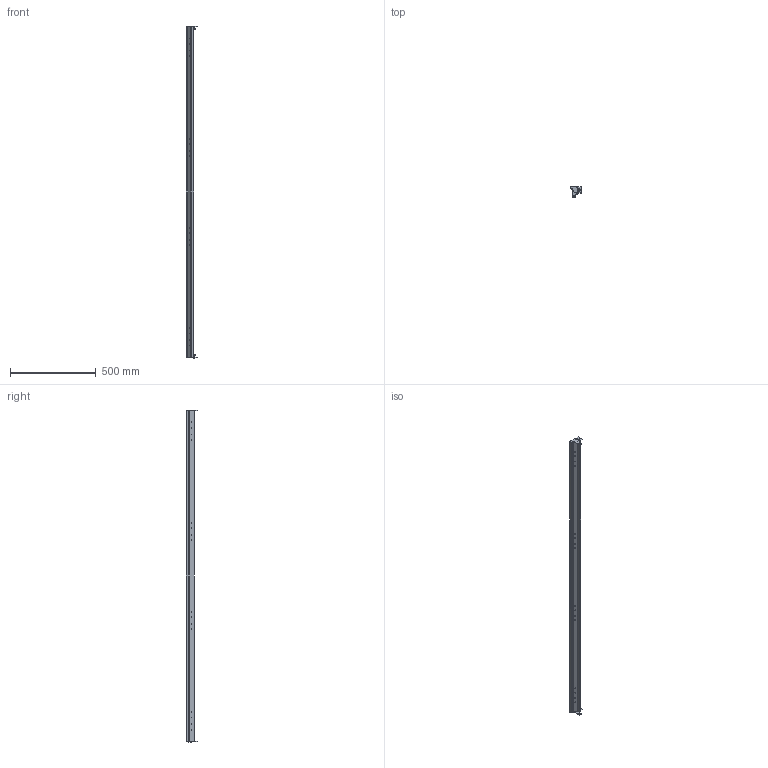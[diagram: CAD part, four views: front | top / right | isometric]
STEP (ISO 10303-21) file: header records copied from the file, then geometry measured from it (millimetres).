
FILE_DESCRIPTION (( 'STEP AP214' ), '1' );
FILE_NAME ('FO-00-PRVV-200 FORMAT Ïðîôèëü âåðò. âñòðîåí. îòñåêà 2000 IEK.STEP', '2025-07-15T06:30:39', ( '' ), ( '' ), 'SwSTEP 2.0', 'SolidWorks 2023', '' );
FILE_SCHEMA (( 'AUTOMOTIVE_DESIGN' ));
Length unit declared in the file: millimetre
Products named in the file (1): FO-00-PRVV-200 FORMAT Профиль верт. встроен. отсека 2000 IEK
Bounding box: 69 x 64.5 x 1933 mm (x, y, z)
Volume: 465587.4 mm3; surface area: 616732.4 mm2
Topology: 1 solids, 3 shells, 1168 faces, 3438 edges, 2284 vertices
Faces by surface type: plane 774, cylinder 382, cone 12
Entity records: 40125 total; most frequent: CARTESIAN_POINT 6891, ORIENTED_EDGE 6876, DIRECTION 6556, EDGE_CURVE 3438, LINE 2658, VECTOR 2658, VERTEX_POINT 2284, AXIS2_PLACEMENT_3D 1949
